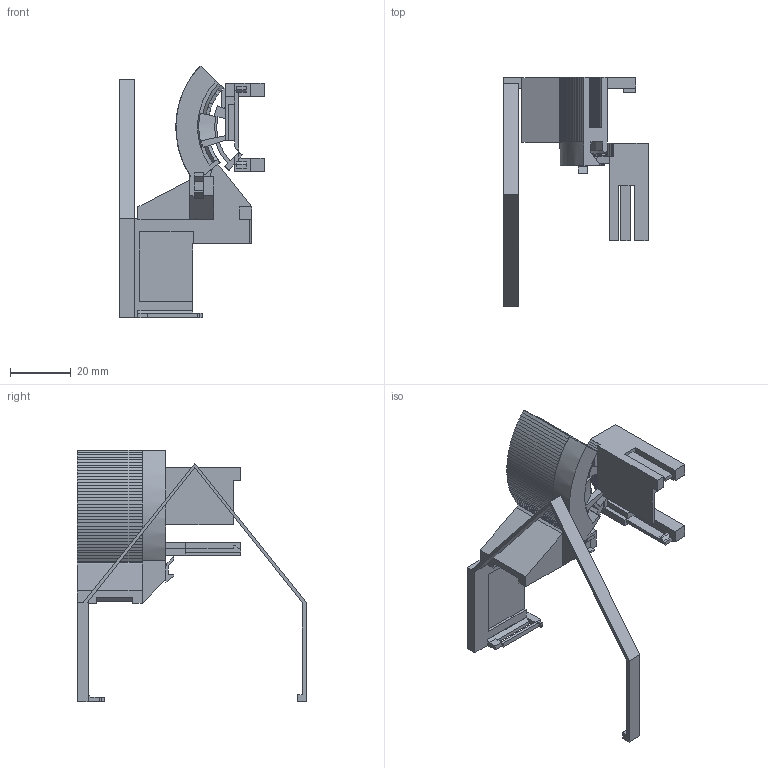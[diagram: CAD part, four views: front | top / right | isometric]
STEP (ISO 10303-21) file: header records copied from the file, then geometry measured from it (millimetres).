
FILE_DESCRIPTION(('Open CASCADE Model'),'2;1');
FILE_NAME('Open CASCADE Shape Model','2026-10-14T01:18:47',('Author'),( 'Open CASCADE'),'Open CASCADE STEP processor 8.0','build123d', 'Unknown');
FILE_SCHEMA(('AUTOMOTIVE_DESIGN { 1 0 10303 214 1 1 1 1 }'));
Length unit declared in the file: millimetre
Products named in the file (3): COMPOUND; SOLID
Assembly tree (2 placements, depth 2):
  COMPOUND
    SOLID
    SOLID
Bounding box: 47.6 x 75.45 x 83.02 mm (x, y, z)
Volume: 19426.1 mm3; surface area: 15539.3 mm2
Topology: 2 solids, 2 shells, 784 faces, 2154 edges, 1376 vertices
Faces by surface type: plane 752, cone 21, cylinder 11
Entity records: 52007 total; most frequent: CARTESIAN_POINT 9512, DIRECTION 7607, LINE 5697, VECTOR 5697, ORIENTED_EDGE 4308, PCURVE 4308, DEFINITIONAL_REPRESENTATION 4308, EDGE_CURVE 2154
